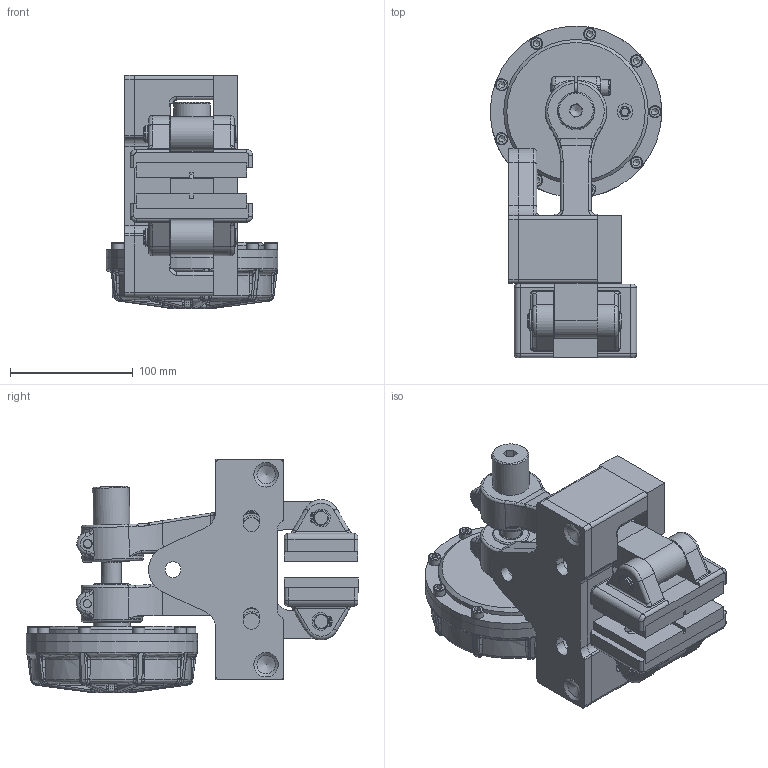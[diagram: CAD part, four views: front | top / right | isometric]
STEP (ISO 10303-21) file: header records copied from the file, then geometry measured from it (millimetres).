
FILE_DESCRIPTION(/* description */ ('','CAx-IF Rec.Pracs.---Representation and Presentation of Product Manufacturing Information (PMI)---4.0---2014-10-13'),/* implementation_level */ '2;1');
FILE_NAME(/* name */ 'X:\INVENTOR\DISEGNI\19_Pinze\STEP x Sito\PNEUM-POSITIVE\19_16_033_03 PPH033_12,7.stp',/* time_stamp */ '2018-02-14T10:23:17+01:00',/* author */ ('stefano'),/* organization */ (''),/* preprocessor_version */ 'ST-DEVELOPER v17',/* originating_system */ 'Autodesk Inventor 2018',/* authorisation */ '');
FILE_SCHEMA (('AP242_MANAGED_MODEL_BASED_3D_ENGINEERING_MIM_LF { 1 0 10303 442 1 1 4 }'));
Products named in the file (1): 19_16_033_03 PPH033_12,7_Substitute_1
Bounding box: 140 x 271 x 190.25 mm (x, y, z)
Volume: 2084001.7 mm3; surface area: 262328.8 mm2
Topology: 1 solids, 1 shells, 1414 faces, 3825 edges, 2443 vertices
Faces by surface type: plane 550, cylinder 382, bspline 278, torus 113, cone 90, sphere 1
Full cylindrical faces by diameter (mm): 1.7 x18, 5 x1, 6 x4, 6.5 x4, 6.647 x1, 8 x2, 8.5 x2, 9.5 x2, 10 x10, 11.5 x4, 12 x15, 13 x9, 13.4 x6, 13.5 x2, 14 x12, 14.95 x1, 16 x6, 16.5 x4, 19 x1, 21 x3, 22.6 x1, 30 x2, 35 x1, 85 x1, 118 x1, 140 x2
Entity records: 55875 total; most frequent: CARTESIAN_POINT 20580, ORIENTED_EDGE 7554, DIRECTION 6631, EDGE_CURVE 3777, AXIS2_PLACEMENT_3D 2593, VERTEX_POINT 2443, EDGE_LOOP 1549, LINE 1445
